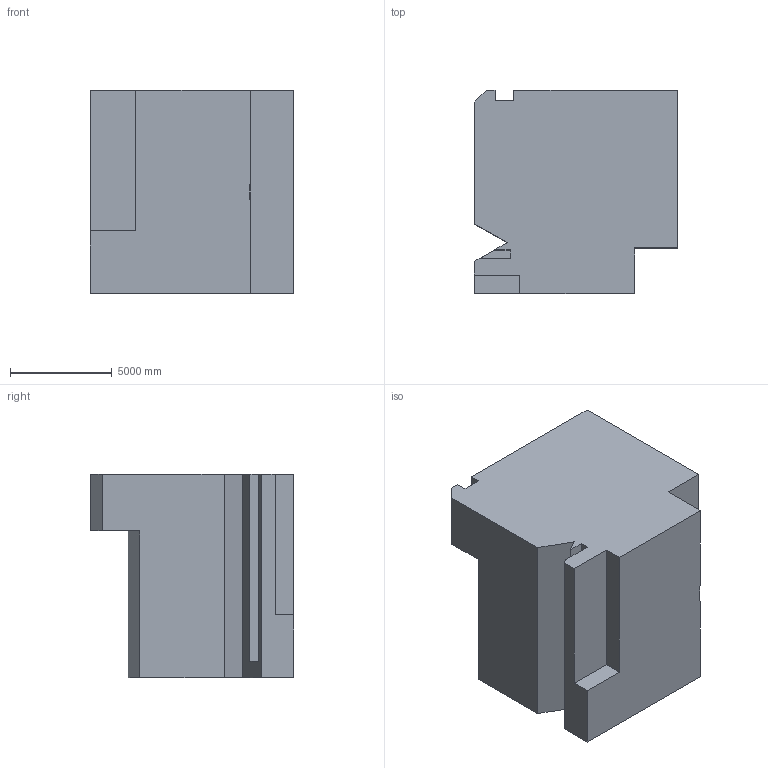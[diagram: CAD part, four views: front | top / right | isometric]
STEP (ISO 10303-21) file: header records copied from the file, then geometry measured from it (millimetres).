
FILE_DESCRIPTION (( 'STEP AP203' ), '1' );
FILE_NAME ('74.STEP', '2022-09-01T14:14:59', ( 'user' ), ( '' ), 'SwSTEP 2.0', 'SolidWorks 2021', '' );
FILE_SCHEMA (( 'CONFIG_CONTROL_DESIGN' ));
Length unit declared in the file: centimetre
Products named in the file (1): 74
Bounding box: 10000 x 10000 x 10000 mm (x, y, z)
Volume: 762217596256.1 mm3; surface area: 589375932.4 mm2
Topology: 1 solids, 1 shells, 29 faces, 81 edges, 54 vertices
Faces by surface type: plane 29
Entity records: 992 total; most frequent: CARTESIAN_POINT 165, ORIENTED_EDGE 162, DIRECTION 141, EDGE_CURVE 81, LINE 81, VECTOR 81, VERTEX_POINT 54, AXIS2_PLACEMENT_3D 30
